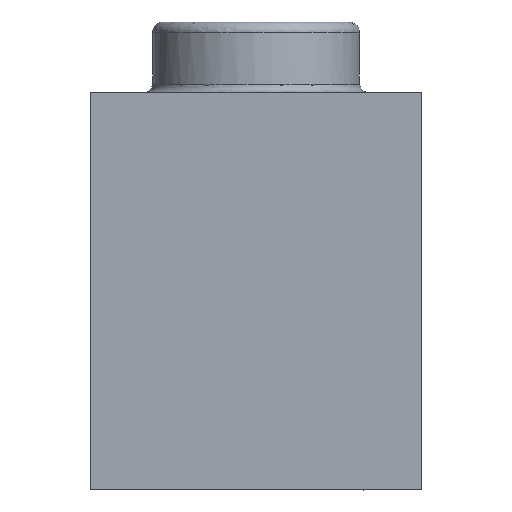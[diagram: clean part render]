
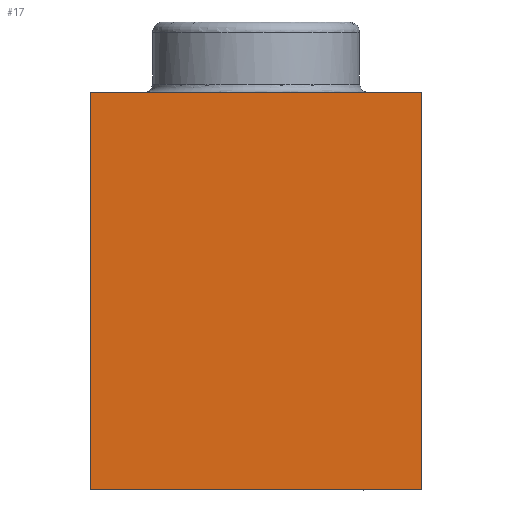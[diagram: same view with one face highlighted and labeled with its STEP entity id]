
A CAD part, front view. The second image highlights one B-rep face of the part: STEP entity #17.
In plain terms, the highlighted planar face has unit normal (0, -1, 0).
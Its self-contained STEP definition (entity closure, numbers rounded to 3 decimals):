
#17 = ADVANCED_FACE('',(#18),#32,.T.);
#18 = FACE_BOUND('',#19,.T.);
#19 = EDGE_LOOP('',(#20,#55,#83,#111));
#20 = ORIENTED_EDGE('',*,*,#21,.T.);
#21 = EDGE_CURVE('',#22,#24,#26,.T.);
#22 = VERTEX_POINT('',#23);
#23 = CARTESIAN_POINT('',(8.,0.,9.6));
#24 = VERTEX_POINT('',#25);
#25 = CARTESIAN_POINT('',(0.,0.,9.6));
#26 = SURFACE_CURVE('',#27,(#31,#43),.PCURVE_S1.);
#27 = LINE('',#28,#29);
#28 = CARTESIAN_POINT('',(8.,0.,9.6));
#29 = VECTOR('',#30,1.);
#30 = DIRECTION('',(-1.,0.,0.));
#31 = PCURVE('',#32,#37);
#32 = PLANE('',#33);
#33 = AXIS2_PLACEMENT_3D('',#34,#35,#36);
#34 = CARTESIAN_POINT('',(4.,0.,4.8));
#35 = DIRECTION('',(0.,-1.,0.));
#36 = DIRECTION('',(-0.,0.,1.));
#37 = DEFINITIONAL_REPRESENTATION('',(#38),#42);
#38 = LINE('',#39,#40);
#39 = CARTESIAN_POINT('',(4.8,-4.));
#40 = VECTOR('',#41,1.);
#41 = DIRECTION('',(0.,1.));
#42 = ( GEOMETRIC_REPRESENTATION_CONTEXT(2) 
PARAMETRIC_REPRESENTATION_CONTEXT() REPRESENTATION_CONTEXT('2D SPACE',''
  ) );
#43 = PCURVE('',#44,#49);
#44 = PLANE('',#45);
#45 = AXIS2_PLACEMENT_3D('',#46,#47,#48);
#46 = CARTESIAN_POINT('',(4.024,7.566,9.6));
#47 = DIRECTION('',(0.,0.,1.));
#48 = DIRECTION('',(0.,1.,0.));
#49 = DEFINITIONAL_REPRESENTATION('',(#50),#54);
#50 = LINE('',#51,#52);
#51 = CARTESIAN_POINT('',(-7.566,-3.976));
#52 = VECTOR('',#53,1.);
#53 = DIRECTION('',(0.,1.));
#54 = ( GEOMETRIC_REPRESENTATION_CONTEXT(2) 
PARAMETRIC_REPRESENTATION_CONTEXT() REPRESENTATION_CONTEXT('2D SPACE',''
  ) );
#55 = ORIENTED_EDGE('',*,*,#56,.T.);
#56 = EDGE_CURVE('',#24,#57,#59,.T.);
#57 = VERTEX_POINT('',#58);
#58 = CARTESIAN_POINT('',(0.,0.,0.));
#59 = SURFACE_CURVE('',#60,(#64,#71),.PCURVE_S1.);
#60 = LINE('',#61,#62);
#61 = CARTESIAN_POINT('',(0.,0.,9.6));
#62 = VECTOR('',#63,1.);
#63 = DIRECTION('',(0.,0.,-1.));
#64 = PCURVE('',#32,#65);
#65 = DEFINITIONAL_REPRESENTATION('',(#66),#70);
#66 = LINE('',#67,#68);
#67 = CARTESIAN_POINT('',(4.8,4.));
#68 = VECTOR('',#69,1.);
#69 = DIRECTION('',(-1.,-0.));
#70 = ( GEOMETRIC_REPRESENTATION_CONTEXT(2) 
PARAMETRIC_REPRESENTATION_CONTEXT() REPRESENTATION_CONTEXT('2D SPACE',''
  ) );
#71 = PCURVE('',#72,#77);
#72 = PLANE('',#73);
#73 = AXIS2_PLACEMENT_3D('',#74,#75,#76);
#74 = CARTESIAN_POINT('',(0.,4.,4.8));
#75 = DIRECTION('',(1.,0.,0.));
#76 = DIRECTION('',(0.,0.,1.));
#77 = DEFINITIONAL_REPRESENTATION('',(#78),#82);
#78 = LINE('',#79,#80);
#79 = CARTESIAN_POINT('',(4.8,4.));
#80 = VECTOR('',#81,1.);
#81 = DIRECTION('',(-1.,0.));
#82 = ( GEOMETRIC_REPRESENTATION_CONTEXT(2) 
PARAMETRIC_REPRESENTATION_CONTEXT() REPRESENTATION_CONTEXT('2D SPACE',''
  ) );
#83 = ORIENTED_EDGE('',*,*,#84,.T.);
#84 = EDGE_CURVE('',#57,#85,#87,.T.);
#85 = VERTEX_POINT('',#86);
#86 = CARTESIAN_POINT('',(8.,0.,0.));
#87 = SURFACE_CURVE('',#88,(#92,#99),.PCURVE_S1.);
#88 = LINE('',#89,#90);
#89 = CARTESIAN_POINT('',(0.,0.,0.));
#90 = VECTOR('',#91,1.);
#91 = DIRECTION('',(1.,0.,0.));
#92 = PCURVE('',#32,#93);
#93 = DEFINITIONAL_REPRESENTATION('',(#94),#98);
#94 = LINE('',#95,#96);
#95 = CARTESIAN_POINT('',(-4.8,4.));
#96 = VECTOR('',#97,1.);
#97 = DIRECTION('',(0.,-1.));
#98 = ( GEOMETRIC_REPRESENTATION_CONTEXT(2) 
PARAMETRIC_REPRESENTATION_CONTEXT() REPRESENTATION_CONTEXT('2D SPACE',''
  ) );
#99 = PCURVE('',#100,#105);
#100 = PLANE('',#101);
#101 = AXIS2_PLACEMENT_3D('',#102,#103,#104);
#102 = CARTESIAN_POINT('',(7.533,3.133,
    0.));
#103 = DIRECTION('',(0.,0.,1.));
#104 = DIRECTION('',(0.,1.,0.));
#105 = DEFINITIONAL_REPRESENTATION('',(#106),#110);
#106 = LINE('',#107,#108);
#107 = CARTESIAN_POINT('',(-3.133,7.533));
#108 = VECTOR('',#109,1.);
#109 = DIRECTION('',(0.,-1.));
#110 = ( GEOMETRIC_REPRESENTATION_CONTEXT(2) 
PARAMETRIC_REPRESENTATION_CONTEXT() REPRESENTATION_CONTEXT('2D SPACE',''
  ) );
#111 = ORIENTED_EDGE('',*,*,#112,.T.);
#112 = EDGE_CURVE('',#85,#22,#113,.T.);
#113 = SURFACE_CURVE('',#114,(#118,#125),.PCURVE_S1.);
#114 = LINE('',#115,#116);
#115 = CARTESIAN_POINT('',(8.,0.,0.));
#116 = VECTOR('',#117,1.);
#117 = DIRECTION('',(0.,0.,1.));
#118 = PCURVE('',#32,#119);
#119 = DEFINITIONAL_REPRESENTATION('',(#120),#124);
#120 = LINE('',#121,#122);
#121 = CARTESIAN_POINT('',(-4.8,-4.));
#122 = VECTOR('',#123,1.);
#123 = DIRECTION('',(1.,0.));
#124 = ( GEOMETRIC_REPRESENTATION_CONTEXT(2) 
PARAMETRIC_REPRESENTATION_CONTEXT() REPRESENTATION_CONTEXT('2D SPACE',''
  ) );
#125 = PCURVE('',#126,#131);
#126 = PLANE('',#127);
#127 = AXIS2_PLACEMENT_3D('',#128,#129,#130);
#128 = CARTESIAN_POINT('',(8.,4.,4.8));
#129 = DIRECTION('',(1.,0.,0.));
#130 = DIRECTION('',(0.,0.,1.));
#131 = DEFINITIONAL_REPRESENTATION('',(#132),#136);
#132 = LINE('',#133,#134);
#133 = CARTESIAN_POINT('',(-4.8,4.));
#134 = VECTOR('',#135,1.);
#135 = DIRECTION('',(1.,0.));
#136 = ( GEOMETRIC_REPRESENTATION_CONTEXT(2) 
PARAMETRIC_REPRESENTATION_CONTEXT() REPRESENTATION_CONTEXT('2D SPACE',''
  ) );
